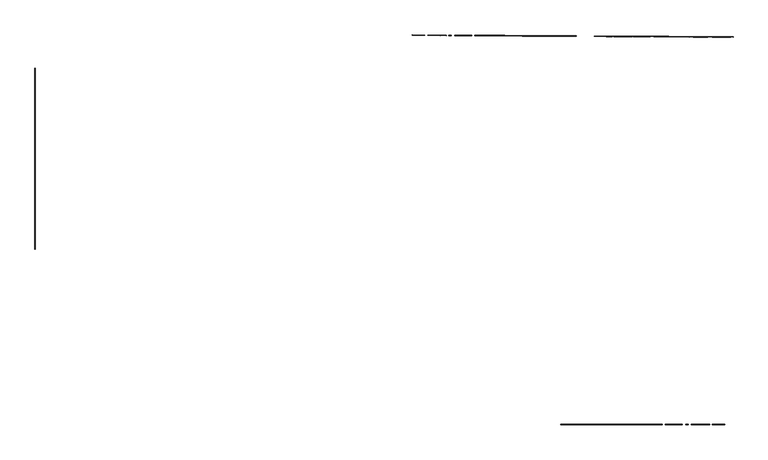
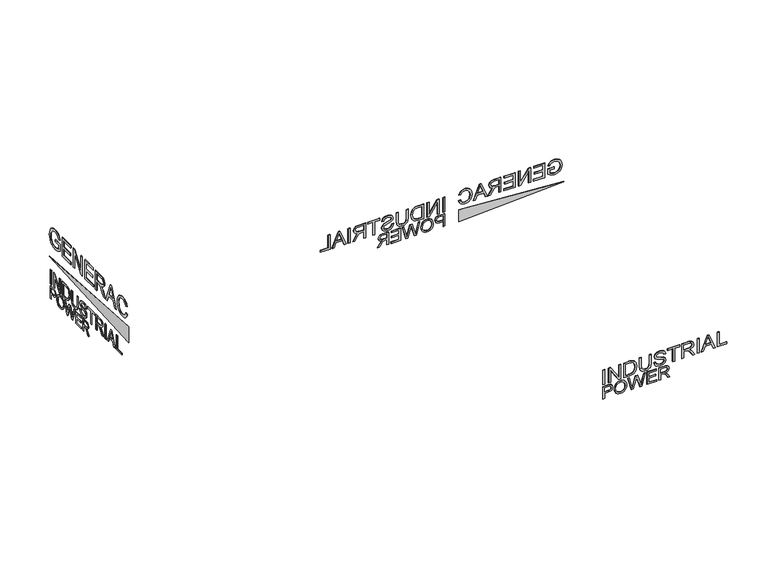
"""IFC4 building model written with IfcOpenShell, lengths in millimetres: proxy geometry, Electrical_Equipment-Generac-Generator-Gemini_1000kW : MD1000GEM - 277v - 3p."""

from ifc_helpers import new_model, si_unit, frame, origin, place, context, project, spatial, polyline, outline, extrude, source, transform, mapped, element, save


def electrical_equipment_733f82be(model_context):
    return source(origin(), model_context, "Body", "SweptSolid", [
        extrude(outline(polyline([(2243.4273681, 2563.7360367), (2229.8889066, 2563.7360367), (2229.8889066, 2607.7360367), (2202.3624643, 2607.7360367), (2183.1289907, 2610.1290655), (2170.9093393, 2617.308152), (2164.374784, 2627.9445703), (2162.1965989, 2640.7095943), (2165.4225604, 2655.4776232), (2173.9502047, 2665.948777), (2187.1052527, 2671.012479), (2203.287945, 2672.043729), (2243.4273681, 2672.043729), (2243.4273681, 2563.7360367)]), holes=[polyline([(2229.8889066, 2621.2744982), (2229.8889066, 2658.5052674), (2201.8865027, 2658.5052674), (2188.3480412, 2657.5797867), (2179.2122239, 2651.4451713), (2175.7350604, 2640.2336328), (2177.2092191, 2632.2282242), (2181.631695, 2626.245652), (2189.5643874, 2622.5172867), (2201.569195, 2621.2744982), (2229.8889066, 2621.2744982)])]), frame((-24.85, 0.0, 0.0), z_axis=(1.0, 0.0, 0.0), x_axis=(0.0, 1.0, 0.0)), (0.0, 0.0, 1.0), 2.5),
        extrude(outline(polyline([(2148.6581374, 2616.4619982), (2147.1112624, 2602.6095343), (2142.4706374, 2589.5040655), (2134.8288104, 2578.1140415), (2124.2783297, 2569.4079117), (2111.4670316, 2563.8847746), (2097.0427527, 2562.043729), (2083.4547119, 2563.7095943), (2070.8252047, 2568.7071905), (2060.0565749, 2576.9439693), (2052.0511662, 2588.3273828), (2047.0833176, 2602.1500992), (2045.4273681, 2617.7047867), (2047.0006854, 2633.0545463), (2051.7206374, 2646.6855559), (2059.4417912, 2658.0491376), (2070.0187143, 2666.5966136), (2082.757296, 2671.9511809), (2096.9634258, 2673.7360367), (2117.6875845, 2669.9349549), (2134.2206374, 2658.5317097), (2145.0487624, 2640.4121184), (2148.6581374, 2616.4619982)]), holes=[polyline([(2135.1196758, 2616.3297867), (2132.2969595, 2636.5878996), (2123.8288104, 2650.0833924), (2111.4471999, 2657.6690294), (2096.8840989, 2660.1975751), (2077.0127047, 2654.948777), (2063.5667912, 2640.1543059), (2058.9658297, 2617.8105559), (2061.6530292, 2599.8892818), (2069.7146277, 2586.5821905), (2081.9408898, 2578.3321905), (2097.1220797, 2575.5821905), (2112.0851205, 2578.3057482), (2124.2915508, 2586.4764213), (2132.4126446, 2599.386878), (2135.1196758, 2616.3297867)])]), frame((-24.85, 0.0, 0.0), z_axis=(1.0, 0.0, 0.0), x_axis=(0.0, 1.0, 0.0)), (0.0, 0.0, 1.0), 2.5),
        extrude(outline(polyline([(2007.429772, 2563.7360367), (1991.0884258, 2563.7360367), (1967.4225604, 2644.9139213), (1963.350445, 2658.9547867), (1959.7278489, 2647.293729), (1933.7615027, 2563.7360367), (1919.2975604, 2563.7360367), (1889.7350604, 2672.043729), (1903.6965989, 2672.043729), (1920.9898681, 2600.2264213), (1926.1196758, 2578.887479), (1937.7278489, 2618.6038251), (1953.3288104, 2672.043729), (1973.4514066, 2672.043729), (1994.9225604, 2598.3225751), (2000.5812143, 2578.887479), (2005.8696758, 2600.8610367), (2023.0042912, 2672.043729), (2036.9658297, 2672.043729), (2007.429772, 2563.7360367)])), frame((-24.85, 0.0, 0.0), z_axis=(1.0, 0.0, 0.0), x_axis=(0.0, 1.0, 0.0)), (0.0, 0.0, 1.0), 2.5),
        extrude(outline(polyline([(1876.1965989, 2563.7360367), (1796.6581374, 2563.7360367), (1796.6581374, 2577.2744982), (1862.6581374, 2577.2744982), (1862.6581374, 2612.8129597), (1801.7350604, 2612.8129597), (1801.7350604, 2626.3514213), (1862.6581374, 2626.3514213), (1862.6581374, 2658.5052674), (1798.350445, 2658.5052674), (1798.350445, 2672.043729), (1876.1965989, 2672.043729), (1876.1965989, 2563.7360367)])), frame((-24.85, 0.0, 0.0), z_axis=(1.0, 0.0, 0.0), x_axis=(0.0, 1.0, 0.0)), (0.0, 0.0, 1.0), 2.5),
        extrude(outline(polyline([(1776.350445, 2563.7360367), (1762.8119835, 2563.7360367), (1762.8119835, 2611.120652), (1746.4706374, 2611.120652), (1738.617272, 2610.6446905), (1732.17857, 2608.0665655), (1725.0259258, 2601.0461328), (1714.8456374, 2586.1855559), (1700.7518874, 2563.7360367), (1685.0187143, 2563.7360367), (1703.0788104, 2593.0869982), (1714.0523681, 2607.0220943), (1721.7470797, 2612.8129597), (1708.4102407, 2616.402503), (1699.0728008, 2622.887479), (1693.5694955, 2631.7324309), (1691.7350604, 2642.401902), (1696.164147, 2658.7829117), (1708.0103008, 2669.121854), (1729.679772, 2672.043729), (1776.350445, 2672.043729), (1776.350445, 2563.7360367)]), holes=[polyline([(1762.8119835, 2624.6591136), (1762.8119835, 2658.5052674), (1729.0980412, 2658.5052674), (1710.9982816, 2653.824979), (1705.273522, 2641.8994982), (1708.2747239, 2632.7107963), (1717.05357, 2626.5761809), (1732.5090989, 2624.6591136), (1762.8119835, 2624.6591136)])]), frame((-24.85, 0.0, 0.0), z_axis=(1.0, 0.0, 0.0), x_axis=(0.0, 1.0, 0.0)), (0.0, 0.0, 1.0), 2.5),
        extrude(outline(polyline([(-24.85, 2228.3040502), (-24.85, 2244.3040502), (-22.35, 2244.3040502), (-22.35, 2228.3040502), (-24.85, 2228.3040502)])), frame((0.0, 0.0, 2689.6667086), z_axis=(0.0, 0.0, 1.0), x_axis=(1.0, 0.0, 0.0)), (0.0, 0.0, 1.0), 128.0),
        extrude(outline(polyline([(2196.3040502, 2689.6667086), (2180.3040502, 2689.6667086), (2180.3040502, 2791.1042086), (2113.4290502, 2689.6667086), (2096.3040502, 2689.6667086), (2096.3040502, 2817.6667086), (2112.3040502, 2817.6667086), (2112.3040502, 2716.2604586), (2179.1790502, 2817.6667086), (2196.3040502, 2817.6667086), (2196.3040502, 2689.6667086)])), frame((-24.85, 0.0, 0.0), z_axis=(1.0, 0.0, 0.0), x_axis=(0.0, 1.0, 0.0)), (0.0, 0.0, 1.0), 2.5),
        extrude(outline(polyline([(2068.3040502, 2689.6667086), (2022.0228002, 2689.6667086), (2001.4446752, 2691.8542086), (1986.1478002, 2698.2760836), (1974.4603002, 2709.8854586), (1965.7103002, 2728.5260836), (1962.3040502, 2754.3542086), (1967.3353002, 2784.7917086), (1973.6399877, 2796.9167086), (1982.4915502, 2806.6667086), (2001.3040502, 2815.8229586), (2024.1478002, 2817.6667086), (2068.3040502, 2817.6667086), (2068.3040502, 2689.6667086)]), holes=[polyline([(2052.3040502, 2705.6667086), (2052.3040502, 2801.6667086), (2024.4290502, 2801.6667086), (2001.7415502, 2799.1042086), (1992.6985815, 2793.7604586), (1985.1321752, 2784.9167086), (1980.0110815, 2772.0417086), (1978.3040502, 2754.6042086), (1981.7884252, 2730.4010836), (1991.5228002, 2714.5104586), (2003.3978002, 2707.9792086), (2023.9915502, 2705.6667086), (2052.3040502, 2705.6667086)])]), frame((-24.85, 0.0, 0.0), z_axis=(1.0, 0.0, 0.0), x_axis=(0.0, 1.0, 0.0)), (0.0, 0.0, 1.0), 2.5),
        extrude(outline(polyline([(1856.3040502, 2817.6667086), (1856.3040502, 2744.3854586), (1858.3274877, 2724.3542086), (1864.3978002, 2712.0729586), (1875.2181127, 2705.7682711), (1891.4915502, 2703.6667086), (1910.3040502, 2707.9167086), (1921.1478002, 2719.9948336), (1924.3040502, 2744.3854586), (1924.3040502, 2817.6667086), (1940.3040502, 2817.6667086), (1940.3040502, 2743.8229586), (1935.4446752, 2711.7760836), (1928.9603002, 2701.4284274), (1919.2259252, 2693.8542086), (1906.237644, 2689.2135836), (1889.9915502, 2687.6667086), (1873.3821752, 2689.4440524), (1860.3040502, 2694.7760836), (1850.7337377, 2702.9401461), (1844.6478002, 2713.2135836), (1840.3040502, 2743.8229586), (1840.3040502, 2817.6667086), (1856.3040502, 2817.6667086)])), frame((-24.85, 0.0, 0.0), z_axis=(1.0, 0.0, 0.0), x_axis=(0.0, 1.0, 0.0)), (0.0, 0.0, 1.0), 2.5),
        extrude(outline(polyline([(1818.3040502, 2733.6667086), (1816.4056127, 2720.7448336), (1811.3978002, 2709.2292086), (1803.597019, 2699.7760836), (1793.3196752, 2693.0417086), (1764.7415502, 2687.6667086), (1740.5384252, 2692.6510836), (1724.0384252, 2706.6198336), (1718.3040502, 2725.7604586), (1723.2884252, 2743.8542086), (1738.7728002, 2756.8229586), (1767.0853002, 2764.8542086), (1793.2103002, 2773.7917086), (1798.3040502, 2784.8854586), (1796.5071752, 2792.0963961), (1791.1165502, 2798.1667086), (1781.7962377, 2802.2917086), (1768.2103002, 2803.6667086), (1754.9368627, 2802.2760836), (1745.3665502, 2798.1042086), (1739.2415502, 2791.2135836), (1736.3040502, 2781.6667086), (1720.3040502, 2781.6667086), (1726.6478002, 2801.6979586), (1733.8196752, 2809.4713961), (1743.5228002, 2815.1042086), (1768.8353002, 2819.6667086), (1792.5540502, 2815.3073336), (1801.9329565, 2809.9323336), (1808.7571752, 2802.5260836), (1814.3040502, 2784.4167086), (1809.8196752, 2768.5104586), (1796.2103002, 2756.6042086), (1771.1321752, 2748.7135836), (1747.8353002, 2742.6042086), (1736.9603002, 2735.3385836), (1734.3040502, 2725.3542086), (1737.8509252, 2714.6198336), (1748.6478002, 2706.5885836), (1765.3665502, 2703.6667086), (1784.5540502, 2707.5260836), (1797.1478002, 2717.6510836), (1802.3040502, 2733.6667086), (1818.3040502, 2733.6667086)])), frame((-24.85, 0.0, 0.0), z_axis=(1.0, 0.0, 0.0), x_axis=(0.0, 1.0, 0.0)), (0.0, 0.0, 1.0), 2.5),
        extrude(outline(polyline([(1662.3040502, 2689.6667086), (1646.3040502, 2689.6667086), (1646.3040502, 2801.6667086), (1604.3040502, 2801.6667086), (1604.3040502, 2817.6667086), (1704.3040502, 2817.6667086), (1704.3040502, 2801.6667086), (1662.3040502, 2801.6667086), (1662.3040502, 2689.6667086)])), frame((-24.85, 0.0, 0.0), z_axis=(1.0, 0.0, 0.0), x_axis=(0.0, 1.0, 0.0)), (0.0, 0.0, 1.0), 2.5),
        extrude(outline(polyline([(1586.3040502, 2689.6667086), (1570.3040502, 2689.6667086), (1570.3040502, 2745.6667086), (1550.9915502, 2745.6667086), (1541.7103002, 2745.1042086), (1534.1009252, 2742.0573336), (1525.6478002, 2733.7604586), (1513.6165502, 2716.1979586), (1496.9603002, 2689.6667086), (1478.3665502, 2689.6667086), (1499.7103002, 2724.3542086), (1512.6790502, 2740.8229586), (1521.7728002, 2747.6667086), (1506.0110815, 2751.9088961), (1494.9759252, 2759.5729586), (1488.472019, 2770.0260836), (1486.3040502, 2782.6354586), (1491.5384252, 2801.9948336), (1505.5384252, 2814.2135836), (1531.1478002, 2817.6667086), (1586.3040502, 2817.6667086), (1586.3040502, 2689.6667086)]), holes=[polyline([(1570.3040502, 2761.6667086), (1570.3040502, 2801.6667086), (1530.4603002, 2801.6667086), (1517.800144, 2800.2838961), (1509.0696752, 2796.1354586), (1503.9954565, 2789.8463961), (1502.3040502, 2782.0417086), (1505.8509252, 2771.1823336), (1516.2259252, 2763.9323336), (1534.4915502, 2761.6667086), (1570.3040502, 2761.6667086)])]), frame((-24.85, 0.0, 0.0), z_axis=(1.0, 0.0, 0.0), x_axis=(0.0, 1.0, 0.0)), (0.0, 0.0, 1.0), 2.5),
        extrude(outline(polyline([(-24.85, 1440.3040502), (-24.85, 1456.3040502), (-22.35, 1456.3040502), (-22.35, 1440.3040502), (-24.85, 1440.3040502)])), frame((0.0, 0.0, 2689.6667086), z_axis=(0.0, 0.0, 1.0), x_axis=(1.0, 0.0, 0.0)), (0.0, 0.0, 1.0), 128.0),
        extrude(outline(polyline([(1423.2103002, 2689.6667086), (1406.3040502, 2689.6667086), (1391.6790502, 2729.6667086), (1338.9603002, 2729.6667086), (1324.3040502, 2689.6667086), (1307.3978002, 2689.6667086), (1358.4915502, 2817.6667086), (1372.1165502, 2817.6667086), (1423.2103002, 2689.6667086)]), holes=[polyline([(1385.8040502, 2745.6667086), (1373.2728002, 2779.8854586), (1365.3040502, 2801.6667086), (1356.3353002, 2777.1354586), (1344.8040502, 2745.6667086), (1385.8040502, 2745.6667086)])]), frame((-24.85, 0.0, 0.0), z_axis=(1.0, 0.0, 0.0), x_axis=(0.0, 1.0, 0.0)), (0.0, 0.0, 1.0), 2.5),
        extrude(outline(polyline([(1290.3040502, 2689.6667086), (1210.3040502, 2689.6667086), (1210.3040502, 2705.6667086), (1274.3040502, 2705.6667086), (1274.3040502, 2817.6667086), (1290.3040502, 2817.6667086), (1290.3040502, 2689.6667086)])), frame((-24.85, 0.0, 0.0), z_axis=(1.0, 0.0, 0.0), x_axis=(0.0, 1.0, 0.0)), (0.0, 0.0, 1.0), 2.5),
        extrude(outline(polyline([(2169.3962412, 3103.9672417), (2122.3193181, 3103.9672417), (2122.3193181, 3073.7268571), (2143.5080201, 3062.2641167), (2172.134222, 3056.8903186), (2188.5467821, 3058.673071), (2204.0296547, 3064.0213282), (2217.2598229, 3073.0423619), (2226.9142701, 3085.8434436), (2232.81421, 3102.3070854), (2234.7808566, 3122.3157994), (2233.1462412, 3139.3770974), (2228.2423951, 3155.1715686), (2217.4743662, 3171.2929628), (2199.2484047, 3183.1439244), (2172.4611451, 3187.6595494), (2148.9431162, 3183.4708474), (2132.6378277, 3172.3145974), (2123.0957604, 3152.9648378), (2103.8072989, 3158.399934), (2116.4551354, 3186.0862321), (2126.3496667, 3195.5261359), (2139.4010489, 3202.6367128), (2154.899246, 3207.0961479), (2172.134222, 3208.5826263), (2195.6113854, 3206.0183234), (2216.1871066, 3198.3254148), (2233.079835, 3185.3557633), (2245.5080201, 3166.9612321), (2253.1549552, 3145.031845), (2255.7039335, 3121.4576263), (2253.1447388, 3098.0519773), (2245.4671547, 3076.9552224), (2232.7682364, 3059.3677825), (2215.1450393, 3046.4900782), (2193.9307965, 3038.5979508), (2170.4587412, 3035.9672417), (2152.4932965, 3037.6222898), (2134.9671547, 3042.587434), (2101.3962412, 3062.3254148), (2101.3962412, 3124.8903186), (2169.3962412, 3124.8903186), (2169.3962412, 3103.9672417)])), frame((-24.85, 0.0, 0.0), z_axis=(1.0, 0.0, 0.0), x_axis=(0.0, 1.0, 0.0)), (0.0, 0.0, 1.0), 2.5),
        extrude(outline(polyline([(2067.3962412, 3038.5826263), (1944.4731643, 3038.5826263), (1944.4731643, 3059.5057032), (2046.4731643, 3059.5057032), (2046.4731643, 3114.4287801), (1952.3193181, 3114.4287801), (1952.3193181, 3135.3518571), (2046.4731643, 3135.3518571), (2046.4731643, 3185.0441648), (1947.0885489, 3185.0441648), (1947.0885489, 3205.9672417), (2067.3962412, 3205.9672417), (2067.3962412, 3038.5826263)])), frame((-24.85, 0.0, 0.0), z_axis=(1.0, 0.0, 0.0), x_axis=(0.0, 1.0, 0.0)), (0.0, 0.0, 1.0), 2.5),
        extrude(outline(polyline([(1913.0885489, 3038.5826263), (1892.165472, 3038.5826263), (1892.165472, 3171.2316648), (1804.7135489, 3038.5826263), (1782.3193181, 3038.5826263), (1782.3193181, 3205.9672417), (1803.2423951, 3205.9672417), (1803.2423951, 3073.3590686), (1890.6943181, 3205.9672417), (1913.0885489, 3205.9672417), (1913.0885489, 3038.5826263)])), frame((-24.85, 0.0, 0.0), z_axis=(1.0, 0.0, 0.0), x_axis=(0.0, 1.0, 0.0)), (0.0, 0.0, 1.0), 2.5),
        extrude(outline(polyline([(1745.7039335, 3038.5826263), (1622.7808566, 3038.5826263), (1622.7808566, 3059.5057032), (1724.7808566, 3059.5057032), (1724.7808566, 3114.4287801), (1630.6270104, 3114.4287801), (1630.6270104, 3135.3518571), (1724.7808566, 3135.3518571), (1724.7808566, 3185.0441648), (1625.3962412, 3185.0441648), (1625.3962412, 3205.9672417), (1745.7039335, 3205.9672417), (1745.7039335, 3038.5826263)])), frame((-24.85, 0.0, 0.0), z_axis=(1.0, 0.0, 0.0), x_axis=(0.0, 1.0, 0.0)), (0.0, 0.0, 1.0), 2.5),
        extrude(outline(polyline([(1591.3962412, 3038.5826263), (1570.4731643, 3038.5826263), (1570.4731643, 3111.8133955), (1545.2183566, 3111.8133955), (1533.0813374, 3111.0778186), (1523.1306162, 3107.0934436), (1512.0765297, 3096.243684), (1496.3433566, 3073.2773378), (1474.5621066, 3038.5826263), (1450.2472027, 3038.5826263), (1478.1582604, 3083.9432032), (1495.1173951, 3105.4792609), (1507.009222, 3114.4287801), (1486.3977436, 3119.9762561), (1471.9671547, 3129.9984917), (1463.4620465, 3143.6679628), (1460.6270104, 3160.1571455), (1462.3382484, 3173.4128547), (1467.4719624, 3185.4732513), (1475.4713614, 3195.1992128), (1485.7796547, 3201.4516167), (1519.2688374, 3205.9672417), (1591.3962412, 3205.9672417), (1591.3962412, 3038.5826263)]), holes=[polyline([(1570.4731643, 3132.7364724), (1570.4731643, 3185.0441648), (1518.3697989, 3185.0441648), (1501.81421, 3183.2358715), (1490.3974431, 3177.8109917), (1483.7619263, 3169.586833), (1481.5500874, 3159.3807032), (1486.1883085, 3145.1799821), (1499.7556162, 3135.6992128), (1523.6414335, 3132.7364724), (1570.4731643, 3132.7364724)])]), frame((-24.85, 0.0, 0.0), z_axis=(1.0, 0.0, 0.0), x_axis=(0.0, 1.0, 0.0)), (0.0, 0.0, 1.0), 2.5),
        extrude(outline(polyline([(1443.5044143, 3038.5826263), (1421.3962412, 3038.5826263), (1402.2712412, 3090.8903186), (1333.3313374, 3090.8903186), (1314.165472, 3038.5826263), (1292.0572989, 3038.5826263), (1358.8722027, 3205.9672417), (1376.6895104, 3205.9672417), (1443.5044143, 3038.5826263)]), holes=[polyline([(1394.5885489, 3111.8133955), (1378.2015297, 3156.5609917), (1367.7808566, 3185.0441648), (1356.0524912, 3152.9648378), (1340.9731643, 3111.8133955), (1394.5885489, 3111.8133955)])]), frame((-24.85, 0.0, 0.0), z_axis=(1.0, 0.0, 0.0), x_axis=(0.0, 1.0, 0.0)), (0.0, 0.0, 1.0), 2.5),
        extrude(outline(polyline([(1152.0116258, 3098.0826263), (1158.7799552, 3080.1631551), (1169.7676354, 3067.2701263), (1184.3208205, 3059.4852705), (1201.7856643, 3056.8903186), (1216.7679359, 3058.7956672), (1230.6570585, 3064.5117128), (1242.2423951, 3074.079321), (1250.3133085, 3087.5393571), (1255.048585, 3104.2532994), (1256.6270104, 3123.5826263), (1251.2940777, 3154.681184), (1244.0047148, 3168.228059), (1232.8024912, 3178.7100301), (1218.039871, 3185.4221696), (1200.0693181, 3187.6595494), (1184.4791739, 3185.641821), (1171.790472, 3179.5886359), (1161.8806162, 3169.1219893), (1154.6270104, 3153.8638763), (1133.7039335, 3158.8494532), (1142.9446186, 3179.8542609), (1157.3445585, 3195.5465686), (1176.3112052, 3205.3236119), (1199.2520104, 3208.5826263), (1220.2772508, 3206.064297), (1239.4635489, 3198.509309), (1255.641133, 3186.1015566), (1267.6402316, 3169.024934), (1275.0726234, 3147.9486119), (1277.5500874, 3123.5417609), (1275.3586811, 3100.4017369), (1268.7844624, 3078.7941648), (1258.0164335, 3060.414958), (1243.243597, 3046.9600301), (1223.97046, 3038.7154388), (1199.7015297, 3035.9672417), (1175.7952797, 3039.5991527), (1155.8938374, 3050.4948859), (1140.742996, 3068.3070854), (1131.0885489, 3092.6883955), (1152.0116258, 3098.0826263)])), frame((-24.85, 0.0, 0.0), z_axis=(1.0, 0.0, 0.0), x_axis=(0.0, 1.0, 0.0)), (0.0, 0.0, 1.0), 2.5),
        extrude(outline(polyline([(1113.3662223, 2857.2326011), (1113.3662223, 2995.1199392), (2255.8613095, 2926.1762702), (1113.3662223, 2857.2326011)])), frame((-24.85, 0.0, 0.0), z_axis=(1.0, 0.0, 0.0), x_axis=(0.0, 1.0, 0.0)), (0.0, 0.0, 1.0), 2.5),
        extrude(outline(polyline([(13.5384615, 0.0), (13.5384615, -108.3076923), (-26.6009616, -108.3076923), (-42.7836539, -107.2764423), (-55.9387019, -102.2127404), (-64.4663462, -91.7415866), (-67.6923077, -76.9735577), (-65.5141227, -64.2085337), (-58.9795674, -53.5721154), (-46.7599159, -46.3930289), (-27.5264423, -44.0), (0.0, -44.0), (0.0, 0.0), (13.5384615, 0.0)]), holes=[polyline([(0.0, -57.5384616), (-28.3197116, -57.5384616), (-40.3245192, -58.78125), (-48.2572116, -62.5096154), (-52.6796875, -68.4921875), (-54.1538462, -76.4975962), (-50.6766827, -87.7091347), (-41.5408654, -93.84375), (-28.0024039, -94.7692308), (0.0, -94.7692308), (0.0, -57.5384616)])]), frame((3372.9552677, 2456.1764953, 1876.3579432), z_axis=(0.006021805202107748, 0.9999818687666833, 0.0), x_axis=(0.9999818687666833, -0.006021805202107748, 0.0)), (0.0, 0.0, 1.0), 2.5),
        extrude(outline(polyline([(13.9385645, 0.0), (37.3401799, -6.2450175), (54.1461594, -19.0171329), (63.6441588, -36.7135689), (65.1218335, -57.7315481), (61.7714343, -71.6518448), (55.0362397, -83.7174989), (45.3677561, -93.2805044), (33.2174902, -99.6928551), (19.1468701, -102.8709081), (3.7173244, -102.7310201), (-11.5575055, -99.3590704), (-24.7435146, -92.8878906), (-35.1681863, -83.6686232), (-42.1590036, -72.0524109), (-45.7241305, -58.9462944), (-45.8717311, -45.2573143), (-42.4412791, -31.1264521), (-35.5304862, -19.0072383), (-25.7072634, -9.4881189), (-13.5395219, -3.1575396), (0.0, 0.0), (13.9385645, 0.0)]), holes=[polyline([(12.3046973, -13.4401599), (-4.8339736, -14.2501781), (-18.5659439, -20.8883291), (-28.0407917, -32.112593), (-32.408095, -46.6809498), (-31.3598613, -62.073553), (-24.5176697, -75.1398607), (-12.1874389, -84.6284569), (5.3249127, -89.2879257), (28.0412479, -87.1950512), (44.236533, -75.474057), (51.6581975, -56.3079127), (50.7614559, -41.554157), (44.5967637, -28.4071901), (32.1244134, -18.4936463), (12.3046973, -13.4401599)])]), frame((3290.1791243, 2456.6749662, 1915.2314408), z_axis=(0.006021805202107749, 0.9999818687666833, 0.0), x_axis=(0.11097605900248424, -0.000668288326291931, 0.99382285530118)), (0.0, 0.0, 1.0), 2.5),
        extrude(outline(polyline([(16.3413461, 0.0), (45.8774038, -108.3076923), (31.9158654, -108.3076923), (14.7812499, -37.125), (9.4927884, -15.1514423), (3.8341345, -34.5865385), (-17.6370193, -108.3076923), (-37.7596154, -108.3076923), (-53.360577, -54.8677885), (-64.9687501, -15.1514423), (-70.0985578, -36.4903847), (-87.391827, -108.3076923), (-101.3533655, -108.3076923), (-71.7908655, 0.0), (-57.3269231, 0.0), (-31.360577, -83.5576923), (-27.7379808, -95.21875), (-23.6658654, -81.1778847), (0.0, 0.0), (16.3413461, 0.0)])), frame((3134.1591167, 2457.6145053, 1876.3579432), z_axis=(0.006021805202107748, 0.9999818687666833, 0.0), x_axis=(0.9999818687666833, -0.006021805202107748, 0.0)), (0.0, 0.0, 1.0), 2.5),
        extrude(outline(polyline([(79.5384615, 0.0), (79.5384615, -108.3076923), (1.6923077, -108.3076923), (1.6923077, -94.7692308), (66.0, -94.7692308), (66.0, -62.6153847), (5.0769231, -62.6153847), (5.0769231, -49.0769231), (66.0, -49.0769231), (66.0, -13.5384616), (0.0, -13.5384616), (0.0, 0.0), (79.5384615, 0.0)])), frame((2939.7323535, 2458.7853266, 1876.3579432), z_axis=(0.006021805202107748, 0.9999818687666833, 0.0), x_axis=(0.9999818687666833, -0.006021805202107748, 0.0)), (0.0, 0.0, 1.0), 2.5),
        extrude(outline(polyline([(13.5384615, 0.0), (13.5384615, -108.3076923), (-33.1322115, -108.3076923), (-54.8016827, -105.3858173), (-66.6478366, -95.046875), (-71.0769231, -78.6658654), (-69.2424881, -67.9963943), (-63.7391827, -59.1514423), (-54.4017428, -52.6664664), (-41.0649039, -49.0769231), (-48.7596154, -43.2860577), (-59.7331731, -29.3509616), (-77.7932693, 0.0), (-62.0600962, 0.0), (-47.9663462, -22.4495193), (-37.7860577, -37.3100962), (-30.6334135, -44.3305289), (-24.1947116, -46.9086539), (-16.3413462, -47.3846154), (0.0, -47.3846154), (0.0, 0.0), (13.5384615, 0.0)]), holes=[polyline([(0.0, -60.923077), (-30.3028846, -60.923077), (-45.7584135, -62.8401443), (-54.5372596, -68.9747597), (-57.5384615, -78.1634616), (-51.8137019, -90.0889423), (-33.7139424, -94.7692308), (0.0, -94.7692308), (0.0, -60.923077)])]), frame((2905.8868133, 2458.9891416, 1876.3579432), z_axis=(0.006021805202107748, 0.9999818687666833, 0.0), x_axis=(0.9999818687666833, -0.006021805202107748, 0.0)), (0.0, 0.0, 1.0), 2.5),
        extrude(outline(polyline([(3371.3854945, 2458.6859937), (3387.3852044, 2458.5896448), (3387.3701499, 2456.0896901), (3371.37044, 2456.186039), (3371.3854945, 2458.6859937)])), frame((0.0, 0.0, 2002.2886152), z_axis=(0.0, 0.0, 1.0), x_axis=(1.0, 0.0, 0.0)), (0.0, 0.0, 1.0), 128.0),
        extrude(outline(polyline([(16.0, 0.0), (16.0, -128.0), (-1.125, -128.0), (-67.9999999, -26.59375), (-67.9999999, -128.0), (-83.9999999, -128.0), (-83.9999999, 0.0), (-66.8749999, 0.0), (0.0, -101.4375), (0.0, 0.0), (16.0, 0.0)])), frame((3323.3713103, 2456.4750857, 2002.2886152), z_axis=(0.006021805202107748, 0.9999818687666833, 0.0), x_axis=(0.9999818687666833, -0.006021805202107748, 0.0)), (0.0, 0.0, 1.0), 2.5),
        extrude(outline(polyline([(46.2812499, 0.0), (46.2812499, -128.0), (2.1249999, -128.0), (-20.7187501, -126.15625), (-39.5312501, -117.0), (-48.3828125, -107.25), (-54.6875001, -95.125), (-59.7187501, -64.6875), (-56.3125, -38.859375), (-47.5625001, -20.21875), (-35.8750001, -8.609375), (-20.578125, -2.1875), (0.0, 0.0), (46.2812499, 0.0)]), holes=[polyline([(30.2812499, -16.0), (1.96875, -16.0), (-18.625, -18.3125), (-30.5, -24.84375), (-40.234375, -40.734375), (-43.7187501, -64.9375), (-42.0117188, -82.375), (-36.8906251, -95.25), (-29.3242188, -104.09375), (-20.28125, -109.4375), (2.4062499, -112.0), (30.2812499, -112.0), (30.2812499, -16.0)])]), frame((3165.0929302, 2457.4282245, 2002.2886152), z_axis=(0.006021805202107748, 0.9999818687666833, 0.0), x_axis=(0.9999818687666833, -0.006021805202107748, 0.0)), (0.0, 0.0, 1.0), 2.5),
        extrude(outline(polyline([(73.28125, 0.0), (73.28125, -16.0), (-0.5625, -16.0), (-31.171875, -11.6562499), (-41.4453125, -5.5703125), (-49.609375, 4.0), (-54.9414063, 17.078125), (-56.71875, 33.6875001), (-55.171875, 49.9335938), (-50.53125, 62.9218751), (-42.9570313, 72.65625), (-32.609375, 79.140625), (-0.5625, 84.0), (73.28125, 84.0), (73.28125, 68.0), (0.0, 68.0), (-24.390625, 64.8437501), (-36.46875, 54.0000001), (-40.71875, 35.1875001), (-38.6171875, 18.9140625), (-32.3125, 8.09375), (-20.03125, 2.0234376), (0.0, 0.0), (73.28125, 0.0)])), frame((2999.3771848, 2458.4261505, 2057.0073652), z_axis=(0.006021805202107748, 0.9999818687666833, 0.0), x_axis=(0.0, 0.0, 1.0)), (0.0, 0.0, 1.0), 2.5),
        extrude(outline(polyline([(13.0605864, -1e-07), (10.7348869, -15.8300702), (-5.8601353, -18.603587), (-17.7081815, -29.5918518), (-24.3155901, -48.0145846), (-23.8549216, -64.9804839), (-17.4783613, -76.8300816), (-7.3735523, -81.8995948), (2.8908849, -80.7228469), (11.6600935, -71.0194499), (21.0909289, -48.8580377), (32.5430121, -25.1932092), (46.3010177, -13.4590216), (62.6901654, -11.3343458), (79.8009349, -19.45462), (86.1365833, -27.2829058), (90.0912151, -37.343492), (90.956623, -61.4439966), (82.7632502, -85.8244745), (75.779852, -94.6057821), (67.0464966, -100.5715698), (46.3058872, -103.9362785), (48.6315868, -88.1062083), (58.504052, -86.5876041), (66.2118012, -81.5292505), (71.7304728, -72.6669886), (75.0357052, -59.7366592), (75.6501091, -46.0951478), (72.9236845, -36.2742284), (67.7014034, -30.0584975), (60.8282374, -27.2325517), (49.1119016, -30.6596574), (36.4718921, -55.2080726), (24.4105408, -82.0524844), (9.3287767, -95.4873172), (-9.2973165, -97.7887159), (-27.4011292, -89.3330346), (-38.8231449, -70.9778301), (-40.2365079, -46.3072472), (-30.7645855, -18.8139292), (-22.6078578, -9.6246204), (-12.1212387, -3.2807587), (0.0, 0.0), (13.0605864, -1e-07)])), frame((2959.4794708, 2458.6664112, 2033.3667402), z_axis=(0.006021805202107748, 0.9999818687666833, 0.0), x_axis=(0.14535358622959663, -0.0008753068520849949, 0.9893793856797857)), (0.0, 0.0, 1.0), 2.5),
        extrude(outline(polyline([(16.0, 0.0), (16.0, -112.0), (58.0, -112.0), (58.0, -128.0), (-42.0, -128.0), (-42.0, -112.0), (0.0, -112.0), (0.0, 0.0), (16.0, 0.0)])), frame((2789.3809924, 2459.6907296, 2002.2886152), z_axis=(0.006021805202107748, 0.9999818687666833, 0.0), x_axis=(0.9999818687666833, -0.006021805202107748, 0.0)), (0.0, 0.0, 1.0), 2.5),
        extrude(outline(polyline([(16.0, 0.0), (16.0, -128.0), (-39.1562501, -128.0), (-64.765625, -124.546875), (-78.765625, -112.328125), (-84.0, -92.96875), (-81.8320313, -80.359375), (-75.328125, -69.90625), (-64.2929688, -62.2421875), (-48.53125, -58.0), (-57.625, -51.15625), (-70.5937501, -34.6875), (-91.9375, 0.0), (-73.34375, 0.0), (-56.6875, -26.53125), (-44.65625, -44.09375), (-36.203125, -52.390625), (-28.59375, -55.4375), (-19.3125001, -56.0), (0.0, -56.0), (0.0, 0.0), (16.0, 0.0)]), holes=[polyline([(0.0, -72.0), (-35.8125, -72.0), (-54.078125, -74.265625), (-64.453125, -81.515625), (-68.0, -92.375), (-66.3085938, -100.1796875), (-61.2343751, -106.46875), (-52.5039063, -110.6171875), (-39.84375, -112.0), (0.0, -112.0), (0.0, -72.0)])]), frame((2713.3823704, 2460.1483868, 2002.2886152), z_axis=(0.006021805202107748, 0.9999818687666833, 0.0), x_axis=(0.9999818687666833, -0.006021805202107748, 0.0)), (0.0, 0.0, 1.0), 2.5),
        extrude(outline(polyline([(2583.399782, 2463.4311762), (2599.3994919, 2463.3348273), (2599.3844373, 2460.8348726), (2583.3847274, 2460.9312215), (2583.399782, 2463.4311762)])), frame((0.0, 0.0, 2002.2886152), z_axis=(0.0, 0.0, 1.0), x_axis=(1.0, 0.0, 0.0)), (0.0, 0.0, 1.0), 128.0),
        extrude(outline(polyline([(16.90625, 0.0), (-34.1875, -128.0), (-47.8125, -128.0), (-98.90625, 0.0), (-82.0, 0.0), (-67.34375, -40.0), (-14.625, -40.0), (0.0, 0.0), (16.90625, 0.0)]), holes=[polyline([(-20.5, -56.0), (-61.5, -56.0), (-49.96875, -87.46875), (-41.0, -112.0), (-33.03125, -90.21875), (-20.5, -56.0)])]), frame((2549.3853439, 2461.1359629, 2002.2886152), z_axis=(0.006021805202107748, 0.9999818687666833, 0.0), x_axis=(0.9999818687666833, -0.006021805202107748, 0.0)), (0.0, 0.0, 1.0), 2.5),
        extrude(outline(polyline([(80.0, 0.0), (80.0, -128.0), (64.0, -128.0), (64.0, -16.0), (0.0, -16.0), (0.0, 0.0), (80.0, 0.0)])), frame((2353.3888976, 2462.3162367, 2002.2886152), z_axis=(0.006021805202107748, 0.9999818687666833, 0.0), x_axis=(0.9999818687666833, -0.006021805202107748, 0.0)), (0.0, 0.0, 1.0), 2.5),
        extrude(outline(polyline([(36.0, 0.0), (36.0, -16.0), (-16.0, -16.0), (-16.0, 31.84375), (9.671875, 46.9375), (36.8125, 52.0), (54.7617187, 49.9882812), (70.984375, 43.953125), (84.4609375, 34.1054687), (94.171875, 20.65625), (100.0429687, 4.5234375), (102.0, -13.375), (100.0507812, -31.4023438), (94.203125, -48.171875), (84.6992187, -62.2382813), (71.78125, -72.15625), (56.046875, -78.0390625), (38.09375, -80.0), (13.0624999, -75.453125), (-4.484375, -62.796875), (-14.15625, -41.625), (0.59375, -37.46875), (7.890625, -52.265625), (20.3593749, -60.796875), (38.34375, -64.0), (58.828125, -60.546875), (72.765625, -51.484375), (81.0, -39.15625), (86.0, -14.03125), (84.4960937, 1.2695312), (79.984375, 13.859375), (72.6015625, 23.6484375), (62.484375, 30.546875), (38.09375, 36.0), (16.203125, 31.890625), (0.0, 23.125), (0.0, 0.0), (36.0, 0.0)])), frame((4258.7898816, 2450.8420751, 2065.5405554), z_axis=(0.006021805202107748, 0.9999818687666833, 0.0), x_axis=(0.9999818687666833, -0.006021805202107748, 0.0)), (0.0, 0.0, 1.0), 2.5),
        extrude(outline(polyline([(94.0, 0.0), (94.0, -128.0), (2.0000001, -128.0), (2.0000001, -112.0), (78.0, -112.0), (78.0, -74.0), (6.0, -74.0), (6.0, -58.0), (78.0, -58.0), (78.0, -16.0), (0.0, -16.0), (0.0, 0.0), (94.0, 0.0)])), frame((4122.7923474, 2451.6610406, 2015.5405554), z_axis=(0.006021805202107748, 0.9999818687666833, 0.0), x_axis=(0.9999818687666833, -0.006021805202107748, 0.0)), (0.0, 0.0, 1.0), 2.5),
        extrude(outline(polyline([(16.0, 0.0), (16.0, -128.0), (-1.125, -128.0), (-68.0, -26.59375), (-68.0, -128.0), (-84.0, -128.0), (-84.0, 0.0), (-66.875, 0.0), (0.0, -101.4375), (0.0, 0.0), (16.0, 0.0)])), frame((4082.7930727, 2451.9019128, 2015.5405554), z_axis=(0.006021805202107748, 0.9999818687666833, 0.0), x_axis=(0.9999818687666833, -0.006021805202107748, 0.0)), (0.0, 0.0, 1.0), 2.5),
        extrude(outline(polyline([(94.0, 0.0), (94.0, -128.0), (2.0000001, -128.0), (2.0000001, -112.0), (78.0, -112.0), (78.0, -74.0), (6.0, -74.0), (6.0, -58.0), (78.0, -58.0), (78.0, -16.0), (0.0, -16.0), (0.0, 0.0), (94.0, 0.0)])), frame((3876.7968077, 2453.1424047, 2015.5405554), z_axis=(0.006021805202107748, 0.9999818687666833, 0.0), x_axis=(0.9999818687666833, -0.006021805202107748, 0.0)), (0.0, 0.0, 1.0), 2.5),
        extrude(outline(polyline([(16.0, 0.0), (16.0, -128.0), (-39.1562501, -128.0), (-64.7656251, -124.546875), (-78.765625, -112.328125), (-84.0, -92.96875), (-81.8320313, -80.359375), (-75.328125, -69.90625), (-64.2929688, -62.2421875), (-48.53125, -58.0), (-57.625, -51.15625), (-70.5937501, -34.6875), (-91.9375, 0.0), (-73.34375, 0.0), (-56.6875, -26.53125), (-44.6562501, -44.09375), (-36.203125, -52.390625), (-28.59375, -55.4375), (-19.3125001, -56.0), (0.0, -56.0), (0.0, 0.0), (16.0, 0.0)]), holes=[polyline([(0.0, -72.0), (-35.8125, -72.0), (-54.078125, -74.265625), (-64.453125, -81.515625), (-68.0, -92.375), (-66.3085938, -100.1796875), (-61.2343751, -106.46875), (-52.5039063, -110.6171875), (-39.84375, -112.0), (0.0, -112.0), (0.0, -72.0)])]), frame((3836.797533, 2453.3832769, 2015.5405554), z_axis=(0.006021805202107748, 0.9999818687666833, 0.0), x_axis=(0.9999818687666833, -0.006021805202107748, 0.0)), (0.0, 0.0, 1.0), 2.5),
        extrude(outline(polyline([(16.90625, 0.0), (-34.1875, -128.0), (-47.8125, -128.0), (-98.90625, 0.0), (-82.0, 0.0), (-67.3437499, -40.0), (-14.625, -40.0), (0.0, 0.0), (16.90625, 0.0)]), holes=[polyline([(-20.5, -56.0), (-61.5, -56.0), (-49.96875, -87.46875), (-41.0, -112.0), (-33.03125, -90.21875), (-20.5, -56.0)])]), frame((3722.7995999, 2454.0697627, 2015.5405554), z_axis=(0.006021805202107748, 0.9999818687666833, 0.0), x_axis=(0.9999818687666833, -0.006021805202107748, 0.0)), (0.0, 0.0, 1.0), 2.5),
        extrude(outline(polyline([(14.6480151, 0.0), (16.4426002, -16.4254403), (-3.6079092, -16.1067905), (-20.4441718, -10.0811449), (-33.6161808, 1.2118297), (-42.6739295, 17.3324664), (-47.26549, 35.4364864), (-46.5751711, 51.4517753), (-40.9414962, 65.6555036), (-30.7029885, 78.3248419), (-17.0217971, 88.8663396), (-1.0600712, 96.6865464), (17.069461, 101.50905), (34.1552484, 101.886988), (49.6136828, 97.9172725), (62.8611554, 89.6968156), (73.4500358, 78.0127569), (80.9326931, 63.6522355), (84.799962, 46.3603014), (82.9305466, 30.1501944), (75.5955424, 15.6086792), (63.0660446, 3.3225208), (53.8459788, 16.9432969), (62.801337, 26.2551643), (67.611259, 36.1725805), (68.5130351, 46.8853864), (65.7439552, 58.5834226), (59.2876711, 70.834603), (50.4970405, 79.5818031), (39.9715901, 84.7633525), (28.3108466, 86.3175807), (4.6226593, 81.7296901), (-19.4558975, 67.473979), (-26.9041122, 58.0632753), (-30.618161, 47.1901815), (-28.2691724, 24.4769057), (-21.6937339, 12.6841157), (-12.1922964, 4.3765929), (0.0, 0.0), (14.6480151, 0.0)])), frame((3521.9790224, 2455.279087, 2047.3374304), z_axis=(0.006021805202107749, 0.9999818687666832, 0.0), x_axis=(-0.35333711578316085, 0.0021277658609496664, 0.9354936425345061)), (0.0, 0.0, 1.0), 2.5),
        extrude(outline(polyline([(70.173026, 0.0), (17.5, -872.867288), (-35.173026, 0.0), (70.173026, 0.0)])), frame((3502.5680612, 2455.3959782, 1942.0691423), z_axis=(0.006021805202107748, 0.9999818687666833, 0.0), x_axis=(0.0, 0.0, -1.0)), (0.0, 0.0, 1.0), 2.5),
        extrude(outline(polyline([(1870.0533672, 3290.7535508), (1870.0533672, 3304.2920124), (1914.0533672, 3304.2920124), (1914.0533672, 3331.8184547), (1916.4463961, 3351.0519282), (1923.6254826, 3363.2715797), (1934.2619009, 3369.8061349), (1947.0269249, 3371.98432), (1961.7949538, 3368.7583585), (1972.2661076, 3360.2307143), (1977.3298095, 3347.0756662), (1978.3610595, 3330.8929739), (1978.3610595, 3290.7535508), (1870.0533672, 3290.7535508)]), holes=[polyline([(1927.5918288, 3304.2920124), (1964.822598, 3304.2920124), (1964.822598, 3332.2944162), (1963.8971172, 3345.8328777), (1957.7625018, 3354.968695), (1946.5509634, 3358.4458585), (1938.5455547, 3356.9716999), (1932.5629826, 3352.5492239), (1928.8346172, 3344.6165316), (1927.5918288, 3332.6117239), (1927.5918288, 3304.2920124)])]), frame((0.0, 7.6397414, 0.0), z_axis=(0.0, 1.0, 0.0), x_axis=(0.0, 0.0, 1.0)), (0.0, 0.0, 1.0), 2.5),
        extrude(outline(polyline([(1922.7793288, 3385.5227816), (1908.9268648, 3387.0696566), (1895.8213961, 3391.7102816), (1884.431372, 3399.3521085), (1875.7252422, 3409.9025893), (1870.2021052, 3422.7138874), (1868.3610595, 3437.1381662), (1870.0269249, 3450.7262071), (1875.0245211, 3463.3557143), (1883.2612999, 3474.1243441), (1894.6447134, 3482.1297527), (1908.4674297, 3487.0976013), (1924.0221172, 3488.7535508), (1939.3718768, 3487.1802335), (1953.0028864, 3482.4602816), (1964.3664682, 3474.7391277), (1972.9139441, 3464.1622047), (1978.2685114, 3451.4236229), (1980.0533672, 3437.2174931), (1976.2522855, 3416.4933345), (1964.8490403, 3399.9602816), (1946.7294489, 3389.1321566), (1922.7793288, 3385.5227816)]), holes=[polyline([(1922.6471172, 3399.0612431), (1942.9052302, 3401.8839595), (1956.400723, 3410.3521085), (1963.98636, 3422.7337191), (1966.5149057, 3437.29682), (1961.2661076, 3457.1682143), (1946.4716364, 3470.6141277), (1924.1278864, 3475.2150893), (1906.2066124, 3472.5278898), (1892.8995211, 3464.4662912), (1884.6495211, 3452.2400292), (1881.8995211, 3437.0588393), (1884.6230788, 3422.0957984), (1892.7937518, 3409.8893681), (1905.7042086, 3401.7682744), (1922.6471172, 3399.0612431)])]), frame((0.0, 7.6397414, 0.0), z_axis=(0.0, 1.0, 0.0), x_axis=(0.0, 0.0, 1.0)), (0.0, 0.0, 1.0), 2.5),
        extrude(outline(polyline([(1870.0533672, 3526.751147), (1870.0533672, 3543.0924931), (1951.2312518, 3566.7583585), (1965.2721172, 3570.8304739), (1953.6110595, 3574.45307), (1870.0533672, 3600.4194162), (1870.0533672, 3614.8833585), (1978.3610595, 3644.4458585), (1978.3610595, 3630.48432), (1906.5437518, 3613.1910508), (1885.2048095, 3608.0612431), (1924.9211557, 3596.45307), (1978.3610595, 3580.8521085), (1978.3610595, 3560.7295124), (1904.6399057, 3539.2583585), (1885.2048095, 3533.5997047), (1907.1783672, 3528.3112431), (1978.3610595, 3511.1766277), (1978.3610595, 3497.2150893), (1870.0533672, 3526.751147)])), frame((0.0, 7.6397414, 0.0), z_axis=(0.0, 1.0, 0.0), x_axis=(0.0, 0.0, 1.0)), (0.0, 0.0, 1.0), 2.5),
        extrude(outline(polyline([(1870.0533672, 3657.98432), (1870.0533672, 3737.5227816), (1883.5918288, 3737.5227816), (1883.5918288, 3671.5227816), (1919.1302903, 3671.5227816), (1919.1302903, 3732.4458585), (1932.6687518, 3732.4458585), (1932.6687518, 3671.5227816), (1964.822598, 3671.5227816), (1964.822598, 3735.8304739), (1978.3610595, 3735.8304739), (1978.3610595, 3657.98432), (1870.0533672, 3657.98432)])), frame((0.0, 7.6397414, 0.0), z_axis=(0.0, 1.0, 0.0), x_axis=(0.0, 0.0, 1.0)), (0.0, 0.0, 1.0), 2.5),
        extrude(outline(polyline([(1870.0533672, 3757.8304739), (1870.0533672, 3771.3689354), (1917.4379826, 3771.3689354), (1917.4379826, 3787.7102816), (1916.9620211, 3795.563647), (1914.3838961, 3802.0023489), (1907.3634634, 3809.1549931), (1892.5028864, 3819.3352816), (1870.0533672, 3833.4290316), (1870.0533672, 3849.1622047), (1899.4043288, 3831.1021085), (1913.3394249, 3820.1285508), (1919.1302903, 3812.4338393), (1922.7198336, 3825.7706782), (1929.2048095, 3835.1081181), (1938.0497614, 3840.6114234), (1948.7192326, 3842.4458585), (1965.1002422, 3838.016772), (1975.4391845, 3826.1706181), (1978.3610595, 3804.501147), (1978.3610595, 3757.8304739), (1870.0533672, 3757.8304739)]), holes=[polyline([(1930.9764441, 3771.3689354), (1964.822598, 3771.3689354), (1964.822598, 3805.0828777), (1960.1423095, 3823.1826374), (1948.2168288, 3828.907397), (1939.0281268, 3825.906195), (1932.8935114, 3817.1273489), (1930.9764441, 3801.67182), (1930.9764441, 3771.3689354)])]), frame((0.0, 7.6397414, 0.0), z_axis=(0.0, 1.0, 0.0), x_axis=(0.0, 0.0, 1.0)), (0.0, 0.0, 1.0), 2.5),
        extrude(outline(polyline([(3305.8768687, 7.6397414), (3289.8768687, 7.6397414), (3289.8768687, 10.1397414), (3305.8768687, 10.1397414), (3305.8768687, 7.6397414)])), frame((0.0, 0.0, 1995.9840392), z_axis=(0.0, 0.0, 1.0), x_axis=(1.0, 0.0, 0.0)), (0.0, 0.0, 1.0), 128.0),
        extrude(outline(polyline([(1995.9840392, 3337.8768687), (1995.9840392, 3353.8768687), (2097.4215392, 3353.8768687), (1995.9840392, 3420.7518687), (1995.9840392, 3437.8768687), (2123.9840392, 3437.8768687), (2123.9840392, 3421.8768687), (2022.5777892, 3421.8768687), (2123.9840392, 3355.0018687), (2123.9840392, 3337.8768687), (1995.9840392, 3337.8768687)])), frame((0.0, 7.6397414, 0.0), z_axis=(0.0, 1.0, 0.0), x_axis=(0.0, 0.0, 1.0)), (0.0, 0.0, 1.0), 2.5),
        extrude(outline(polyline([(1995.9840392, 3465.8768687), (1995.9840392, 3512.1581187), (1998.1715392, 3532.7362437), (2004.5934142, 3548.0331187), (2016.2027892, 3559.7206187), (2034.8434142, 3568.4706187), (2060.6715392, 3571.8768687), (2091.1090392, 3566.8456187), (2103.2340392, 3560.5409312), (2112.9840392, 3551.6893687), (2122.1402892, 3532.8768687), (2123.9840392, 3510.0331187), (2123.9840392, 3465.8768687), (1995.9840392, 3465.8768687)]), holes=[polyline([(2011.9840392, 3481.8768687), (2107.9840392, 3481.8768687), (2107.9840392, 3509.7518687), (2105.4215392, 3532.4393687), (2100.0777892, 3541.4823375), (2091.2340392, 3549.0487437), (2078.3590392, 3554.1698375), (2060.9215392, 3555.8768687), (2036.7184142, 3552.3924937), (2020.8277892, 3542.6581187), (2014.2965392, 3530.7831187), (2011.9840392, 3510.1893687), (2011.9840392, 3481.8768687)])]), frame((0.0, 7.6397414, 0.0), z_axis=(0.0, 1.0, 0.0), x_axis=(0.0, 0.0, 1.0)), (0.0, 0.0, 1.0), 2.5),
        extrude(outline(polyline([(2123.9840392, 3677.8768687), (2050.7027892, 3677.8768687), (2030.6715392, 3675.8534312), (2018.3902892, 3669.7831187), (2012.0856017, 3658.9628062), (2009.9840392, 3642.6893687), (2014.2340392, 3623.8768687), (2026.3121642, 3613.0331187), (2050.7027892, 3609.8768687), (2123.9840392, 3609.8768687), (2123.9840392, 3593.8768687), (2050.1402892, 3593.8768687), (2018.0934142, 3598.7362437), (2007.7457579, 3605.2206187), (2000.1715392, 3614.9549937), (1995.5309142, 3627.943275), (1993.9840392, 3644.1893687), (1995.7613829, 3660.7987437), (2001.0934142, 3673.8768687), (2009.2574767, 3683.4471812), (2019.5309142, 3689.5331187), (2050.1402892, 3693.8768687), (2123.9840392, 3693.8768687), (2123.9840392, 3677.8768687)])), frame((0.0, 7.6397414, 0.0), z_axis=(0.0, 1.0, 0.0), x_axis=(0.0, 0.0, 1.0)), (0.0, 0.0, 1.0), 2.5),
        extrude(outline(polyline([(2039.9840392, 3715.8768687), (2027.0621642, 3717.7753062), (2015.5465392, 3722.7831187), (2006.0934142, 3730.5839), (1999.3590392, 3740.8612437), (1993.9840392, 3769.4393687), (1998.9684142, 3793.6424937), (2012.9371642, 3810.1424937), (2032.0777892, 3815.8768687), (2050.1715392, 3810.8924937), (2063.1402892, 3795.4081187), (2071.1715392, 3767.0956187), (2080.1090392, 3740.9706187), (2091.2027892, 3735.8768687), (2098.4137267, 3737.6737437), (2104.4840392, 3743.0643687), (2108.6090392, 3752.3846812), (2109.9840392, 3765.9706187), (2108.5934142, 3779.2440562), (2104.4215392, 3788.8143687), (2097.5309142, 3794.9393687), (2087.9840392, 3797.8768687), (2087.9840392, 3813.8768687), (2108.0152892, 3807.5331187), (2115.7887267, 3800.3612437), (2121.4215392, 3790.6581187), (2125.9840392, 3765.3456187), (2121.6246642, 3741.6268687), (2116.2496642, 3732.2479625), (2108.8434142, 3725.4237437), (2090.7340392, 3719.8768687), (2074.8277892, 3724.3612437), (2062.9215392, 3737.9706187), (2055.0309142, 3763.0487437), (2048.9215392, 3786.3456187), (2041.6559142, 3797.2206187), (2031.6715392, 3799.8768687), (2020.9371642, 3796.3299937), (2012.9059142, 3785.5331187), (2009.9840392, 3768.8143687), (2013.8434142, 3749.6268687), (2023.9684142, 3737.0331187), (2039.9840392, 3731.8768687), (2039.9840392, 3715.8768687)])), frame((0.0, 7.6397414, 0.0), z_axis=(0.0, 1.0, 0.0), x_axis=(0.0, 0.0, 1.0)), (0.0, 0.0, 1.0), 2.5),
        extrude(outline(polyline([(1995.9840392, 3871.8768687), (1995.9840392, 3887.8768687), (2107.9840392, 3887.8768687), (2107.9840392, 3929.8768687), (2123.9840392, 3929.8768687), (2123.9840392, 3829.8768687), (2107.9840392, 3829.8768687), (2107.9840392, 3871.8768687), (1995.9840392, 3871.8768687)])), frame((0.0, 7.6397414, 0.0), z_axis=(0.0, 1.0, 0.0), x_axis=(0.0, 0.0, 1.0)), (0.0, 0.0, 1.0), 2.5),
        extrude(outline(polyline([(1995.9840392, 3947.8768687), (1995.9840392, 3963.8768687), (2051.9840392, 3963.8768687), (2051.9840392, 3983.1893687), (2051.4215392, 3992.4706187), (2048.3746642, 4000.0799937), (2040.0777892, 4008.5331187), (2022.5152892, 4020.5643687), (1995.9840392, 4037.2206187), (1995.9840392, 4055.8143687), (2030.6715392, 4034.4706187), (2047.1402892, 4021.5018687), (2053.9840392, 4012.4081187), (2058.2262267, 4028.1698375), (2065.8902892, 4039.2049937), (2076.3434142, 4045.7089), (2088.9527892, 4047.8768687), (2108.3121642, 4042.6424937), (2120.5309142, 4028.6424937), (2123.9840392, 4003.0331187), (2123.9840392, 3947.8768687), (1995.9840392, 3947.8768687)]), holes=[polyline([(2067.9840392, 3963.8768687), (2107.9840392, 3963.8768687), (2107.9840392, 4003.7206187), (2106.6012267, 4016.380775), (2102.4527892, 4025.1112437), (2096.1637267, 4030.1854625), (2088.3590392, 4031.8768687), (2077.4996642, 4028.3299937), (2070.2496642, 4017.9549937), (2067.9840392, 3999.6893687), (2067.9840392, 3963.8768687)])]), frame((0.0, 7.6397414, 0.0), z_axis=(0.0, 1.0, 0.0), x_axis=(0.0, 0.0, 1.0)), (0.0, 0.0, 1.0), 2.5),
        extrude(outline(polyline([(4093.8768687, 7.6397414), (4077.8768687, 7.6397414), (4077.8768687, 10.1397414), (4093.8768687, 10.1397414), (4093.8768687, 7.6397414)])), frame((0.0, 0.0, 1995.9840392), z_axis=(0.0, 0.0, 1.0), x_axis=(1.0, 0.0, 0.0)), (0.0, 0.0, 1.0), 128.0),
        extrude(outline(polyline([(1995.9840392, 4110.9706187), (1995.9840392, 4127.8768687), (2035.9840392, 4142.5018687), (2035.9840392, 4195.2206187), (1995.9840392, 4209.8768687), (1995.9840392, 4226.7831187), (2123.9840392, 4175.6893687), (2123.9840392, 4162.0643687), (1995.9840392, 4110.9706187)]), holes=[polyline([(2051.9840392, 4148.3768687), (2086.2027892, 4160.9081187), (2107.9840392, 4168.8768687), (2083.4527892, 4177.8456187), (2051.9840392, 4189.3768687), (2051.9840392, 4148.3768687)])]), frame((0.0, 7.6397414, 0.0), z_axis=(0.0, 1.0, 0.0), x_axis=(0.0, 0.0, 1.0)), (0.0, 0.0, 1.0), 2.5),
        extrude(outline(polyline([(1995.9840392, 4243.8768687), (1995.9840392, 4323.8768687), (2011.9840392, 4323.8768687), (2011.9840392, 4259.8768687), (2123.9840392, 4259.8768687), (2123.9840392, 4243.8768687), (1995.9840392, 4243.8768687)])), frame((0.0, 7.6397414, 0.0), z_axis=(0.0, 1.0, 0.0), x_axis=(0.0, 0.0, 1.0)), (0.0, 0.0, 1.0), 2.5),
    ])


if __name__ == "__main__":
    model = new_model("IFC4")
    model_context = context("Model", 3, world=origin())
    ifc_project = project(units=[si_unit("LENGTHUNIT", "METRE", prefix="MILLI")], contexts=[model_context])
    site = spatial("IfcSite", under=ifc_project)
    building = spatial("IfcBuilding", under=site)
    placement = place(None, origin())
    electrical_equipment_shape = electrical_equipment_733f82be(model_context)
    element("IfcBuildingElementProxy", 1, Name="Electrical_Equipment-Generac-Generator-Gemini_1000kW : MD1000GEM - 277v - 3p", ObjectType="Electrical_Equipment-Generac-Generator-Gemini_1000kW : MD1000GEM - 277v - 3p", at=placement, inside=building, context=model_context, shape_type="MappedRepresentation", body=[
        mapped(electrical_equipment_shape, transform((0.0, 0.0, 0.0), x_axis=(1.0, 0.0, 0.0), y_axis=(0.0, 1.0, 0.0), z_axis=(0.0, 0.0, 1.0))),
    ])
    save(model, "model.ifc")
